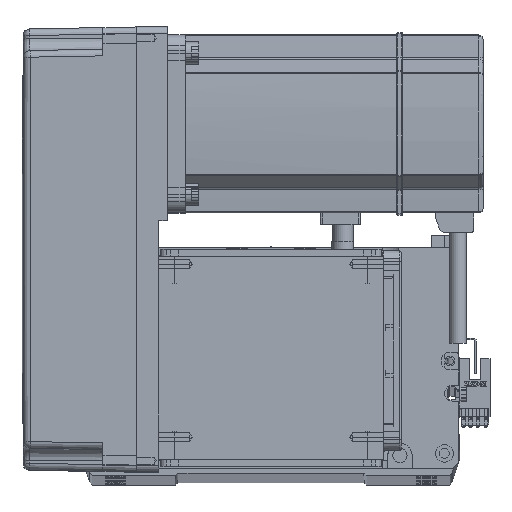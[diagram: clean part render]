
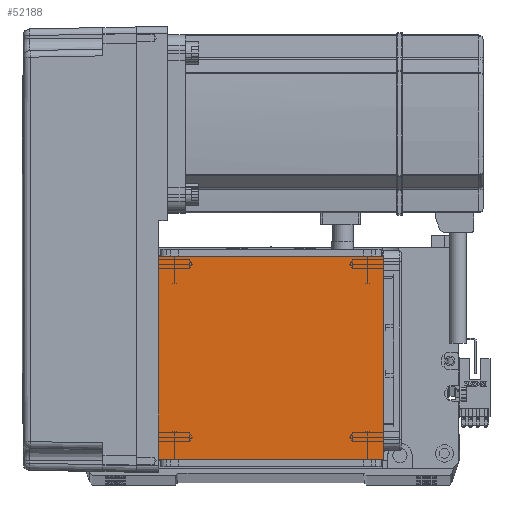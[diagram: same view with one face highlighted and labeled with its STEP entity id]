
A CAD part, top view. The second image highlights one B-rep face of the part: STEP entity #52188.
In plain terms, the highlighted planar face has unit normal (0, 0, 1).
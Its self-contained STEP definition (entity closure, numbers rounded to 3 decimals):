
#4450 = VECTOR ( 'NONE', #18990, 1000. ) ;
#4487 = VERTEX_POINT ( 'NONE', #21791 ) ;
#5511 = EDGE_CURVE ( 'NONE', #14540, #52336, #6076, .T. ) ;
#5777 = EDGE_CURVE ( 'NONE', #14540, #57344, #16719, .T. ) ;
#6076 = LINE ( 'NONE', #11386, #25228 ) ;
#7383 = DIRECTION ( 'NONE',  ( 0., -1., 0. ) ) ;
#10328 = CARTESIAN_POINT ( 'NONE',  ( -50.5, 20., 115. ) ) ;
#10749 = DIRECTION ( 'NONE',  ( 0., 1., 0. ) ) ;
#11386 = CARTESIAN_POINT ( 'NONE',  ( 50.5, 122., 115. ) ) ;
#13902 = FACE_OUTER_BOUND ( 'NONE', #61057, .T. ) ;
#14540 = VERTEX_POINT ( 'NONE', #16902 ) ;
#16719 = LINE ( 'NONE', #48186, #4450 ) ;
#16902 = CARTESIAN_POINT ( 'NONE',  ( 50.5, 20., 115. ) ) ;
#18990 = DIRECTION ( 'NONE',  ( -1., 0., 0. ) ) ;
#21791 = CARTESIAN_POINT ( 'NONE',  ( -50.5, 111.5, 115. ) ) ;
#23900 = DIRECTION ( 'NONE',  ( 1., 0., 0. ) ) ;
#25228 = VECTOR ( 'NONE', #10749, 1000. ) ;
#26366 = LINE ( 'NONE', #26482, #60174 ) ;
#26482 = CARTESIAN_POINT ( 'NONE',  ( -50.5, 122., 115. ) ) ;
#33472 = PLANE ( 'NONE',  #45275 ) ;
#33553 = CARTESIAN_POINT ( 'NONE',  ( -70.004, 111.5, 115. ) ) ;
#35484 = ORIENTED_EDGE ( 'NONE', *, *, #5777, .F. ) ;
#41375 = CARTESIAN_POINT ( 'NONE',  ( 50.5, 111.5, 115. ) ) ;
#42349 = EDGE_CURVE ( 'NONE', #4487, #52336, #60015, .T. ) ;
#43717 = DIRECTION ( 'NONE',  ( 1., 0., 0. ) ) ;
#45275 = AXIS2_PLACEMENT_3D ( 'NONE', #63084, #48893, #43717 ) ;
#48186 = CARTESIAN_POINT ( 'NONE',  ( -70.004, 20., 115. ) ) ;
#48538 = EDGE_CURVE ( 'NONE', #4487, #57344, #26366, .T. ) ;
#48893 = DIRECTION ( 'NONE',  ( 0., 0., 1. ) ) ;
#49248 = ORIENTED_EDGE ( 'NONE', *, *, #5511, .T. ) ;
#51554 = VECTOR ( 'NONE', #23900, 1000. ) ;
#52188 = ADVANCED_FACE ( 'NONE', ( #13902 ), #33472, .T. ) ;
#52336 = VERTEX_POINT ( 'NONE', #41375 ) ;
#52815 = ORIENTED_EDGE ( 'NONE', *, *, #48538, .T. ) ;
#57344 = VERTEX_POINT ( 'NONE', #10328 ) ;
#58408 = ORIENTED_EDGE ( 'NONE', *, *, #42349, .F. ) ;
#60015 = LINE ( 'NONE', #33553, #51554 ) ;
#60174 = VECTOR ( 'NONE', #7383, 1000. ) ;
#61057 = EDGE_LOOP ( 'NONE', ( #58408, #52815, #35484, #49248 ) ) ;
#63084 = CARTESIAN_POINT ( 'NONE',  ( 0., 0., 115. ) ) ;
